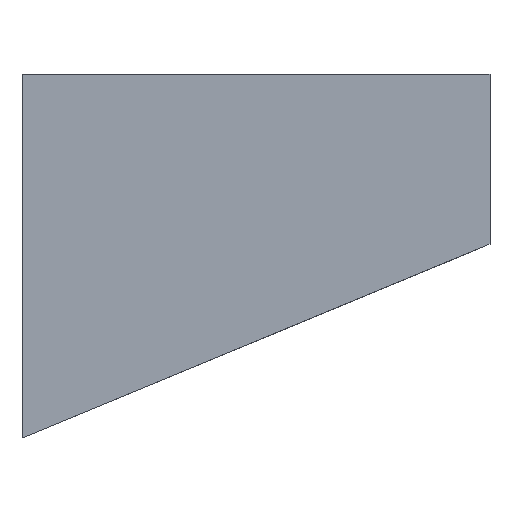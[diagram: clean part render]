
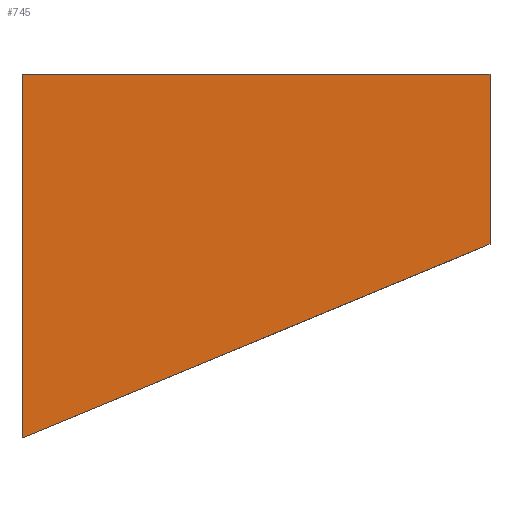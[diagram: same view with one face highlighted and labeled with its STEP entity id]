
A CAD part, front view. The second image highlights one B-rep face of the part: STEP entity #745.
In plain terms, the highlighted planar face has unit normal (0, -1, 0).
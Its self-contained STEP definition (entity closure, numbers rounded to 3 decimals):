
#12 = VECTOR ( 'NONE', #683, 1000. ) ;
#106 = CARTESIAN_POINT ( 'NONE',  ( 5340., 2745., -2465.442 ) ) ;
#153 = AXIS2_PLACEMENT_3D ( 'NONE', #518, #759, #1858 ) ;
#158 = VECTOR ( 'NONE', #505, 1000. ) ;
#246 = CARTESIAN_POINT ( 'NONE',  ( 5160., 2745., -2400. ) ) ;
#260 = DIRECTION ( 'NONE',  ( -1., 0., 0. ) ) ;
#483 = CARTESIAN_POINT ( 'NONE',  ( 5209.497, 2745., -2519.497 ) ) ;
#505 = DIRECTION ( 'NONE',  ( 0., 0., -1. ) ) ;
#518 = CARTESIAN_POINT ( 'NONE',  ( 5160., 2745., -2400. ) ) ;
#531 = VECTOR ( 'NONE', #2355, 1000. ) ;
#683 = DIRECTION ( 'NONE',  ( 0.924, 0., 0.383 ) ) ;
#745 = ADVANCED_FACE ( 'NONE', ( #2505 ), #2114, .F. ) ;
#759 = DIRECTION ( 'NONE',  ( 0., 1., 0. ) ) ;
#906 = VERTEX_POINT ( 'NONE', #106 ) ;
#907 = LINE ( 'NONE', #1385, #158 ) ;
#972 = EDGE_CURVE ( 'NONE', #1157, #2281, #1676, .T. ) ;
#1002 = CARTESIAN_POINT ( 'NONE',  ( 5160., 2745., -2400. ) ) ;
#1085 = EDGE_CURVE ( 'NONE', #2281, #906, #2510, .T. ) ;
#1157 = VERTEX_POINT ( 'NONE', #1836 ) ;
#1385 = CARTESIAN_POINT ( 'NONE',  ( 5340., 2745., -2400. ) ) ;
#1388 = CARTESIAN_POINT ( 'NONE',  ( 5160., 2745., -2540. ) ) ;
#1394 = ORIENTED_EDGE ( 'NONE', *, *, #2477, .F. ) ;
#1395 = CARTESIAN_POINT ( 'NONE',  ( 5340., 2745., -2400. ) ) ;
#1676 = LINE ( 'NONE', #1002, #531 ) ;
#1707 = ORIENTED_EDGE ( 'NONE', *, *, #1085, .T. ) ;
#1836 = CARTESIAN_POINT ( 'NONE',  ( 5160., 2745., -2400. ) ) ;
#1858 = DIRECTION ( 'NONE',  ( -1., 0., 0. ) ) ;
#1903 = VECTOR ( 'NONE', #260, 1000. ) ;
#2114 = PLANE ( 'NONE',  #153 ) ;
#2207 = EDGE_CURVE ( 'NONE', #2869, #1157, #2290, .T. ) ;
#2264 = ORIENTED_EDGE ( 'NONE', *, *, #972, .T. ) ;
#2281 = VERTEX_POINT ( 'NONE', #1388 ) ;
#2290 = LINE ( 'NONE', #246, #1903 ) ;
#2329 = ORIENTED_EDGE ( 'NONE', *, *, #2207, .T. ) ;
#2355 = DIRECTION ( 'NONE',  ( 0., 0., -1. ) ) ;
#2477 = EDGE_CURVE ( 'NONE', #2869, #906, #907, .T. ) ;
#2505 = FACE_OUTER_BOUND ( 'NONE', #2832, .T. ) ;
#2510 = LINE ( 'NONE', #483, #12 ) ;
#2832 = EDGE_LOOP ( 'NONE', ( #1707, #1394, #2329, #2264 ) ) ;
#2869 = VERTEX_POINT ( 'NONE', #1395 ) ;
